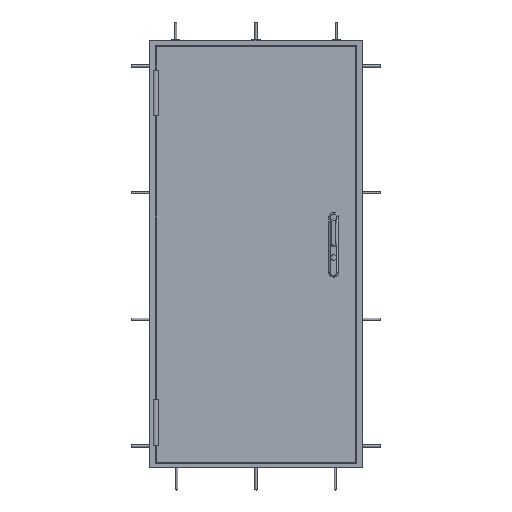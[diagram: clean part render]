
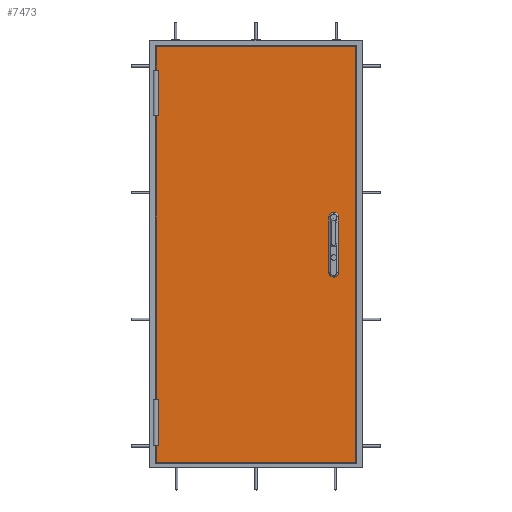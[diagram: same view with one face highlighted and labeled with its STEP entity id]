
A CAD part, top view. The second image highlights one B-rep face of the part: STEP entity #7473.
In plain terms, the highlighted planar face has unit normal (0, 0, 1).
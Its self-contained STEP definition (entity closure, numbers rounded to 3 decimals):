
#2300=DIRECTION('',(1.,0.,0.));
#2301=VECTOR('',#2300,10.25);
#2302=CARTESIAN_POINT('',(-466.,852.5,0.));
#2303=LINE('',#2302,#2301);
#2304=DIRECTION('',(0.,-1.,0.));
#2305=VECTOR('',#2304,110.5);
#2306=CARTESIAN_POINT('',(-466.,963.,0.));
#2307=LINE('',#2306,#2305);
#2308=DIRECTION('',(-1.,0.,0.));
#2309=VECTOR('',#2308,932.);
#2310=CARTESIAN_POINT('',(466.,963.,0.));
#2311=LINE('',#2310,#2309);
#2312=DIRECTION('',(0.,1.,0.));
#2313=VECTOR('',#2312,1942.);
#2314=CARTESIAN_POINT('',(466.,-979.,0.));
#2315=LINE('',#2314,#2313);
#2316=DIRECTION('',(1.,0.,0.));
#2317=VECTOR('',#2316,932.);
#2318=CARTESIAN_POINT('',(-466.,-979.,0.));
#2319=LINE('',#2318,#2317);
#2320=DIRECTION('',(0.,-1.,0.));
#2321=VECTOR('',#2320,83.5);
#2322=CARTESIAN_POINT('',(-466.,-895.5,0.));
#2323=LINE('',#2322,#2321);
#2324=DIRECTION('',(1.,0.,0.));
#2325=VECTOR('',#2324,10.25);
#2326=CARTESIAN_POINT('',(-466.,-895.5,0.));
#2327=LINE('',#2326,#2325);
#2328=DIRECTION('',(0.,-1.,0.));
#2329=VECTOR('',#2328,213.);
#2330=CARTESIAN_POINT('',(-455.75,-682.5,0.));
#2331=LINE('',#2330,#2329);
#2332=DIRECTION('',(1.,0.,0.));
#2333=VECTOR('',#2332,10.25);
#2334=CARTESIAN_POINT('',(-466.,-682.5,0.));
#2335=LINE('',#2334,#2333);
#2336=DIRECTION('',(0.,-1.,0.));
#2337=VECTOR('',#2336,1322.);
#2338=CARTESIAN_POINT('',(-466.,639.5,0.));
#2339=LINE('',#2338,#2337);
#2340=DIRECTION('',(1.,0.,0.));
#2341=VECTOR('',#2340,10.25);
#2342=CARTESIAN_POINT('',(-466.,639.5,0.));
#2343=LINE('',#2342,#2341);
#2344=DIRECTION('',(0.,1.,0.));
#2345=VECTOR('',#2344,213.);
#2346=CARTESIAN_POINT('',(-455.75,639.5,0.));
#2347=LINE('',#2346,#2345);
#2348=DIRECTION('',(0.,-1.,0.));
#2349=VECTOR('',#2348,260.);
#2350=CARTESIAN_POINT('',(339.5,167.9,0.));
#2351=LINE('',#2350,#2349);
#2352=CARTESIAN_POINT('',(359.5,-92.1,0.));
#2353=DIRECTION('',(0.,0.,1.));
#2354=DIRECTION('',(-1.,0.,0.));
#2355=AXIS2_PLACEMENT_3D('',#2352,#2353,#2354);
#2357=DIRECTION('',(1.,0.,0.));
#2358=VECTOR('',#2357,5.);
#2359=CARTESIAN_POINT('',(359.5,-112.1,0.));
#2360=LINE('',#2359,#2358);
#2361=CARTESIAN_POINT('',(364.5,-92.1,0.));
#2362=DIRECTION('',(0.,0.,1.));
#2363=DIRECTION('',(0.,-1.,0.));
#2364=AXIS2_PLACEMENT_3D('',#2361,#2362,#2363);
#2366=DIRECTION('',(0.,1.,0.));
#2367=VECTOR('',#2366,260.);
#2368=CARTESIAN_POINT('',(384.5,-92.1,0.));
#2369=LINE('',#2368,#2367);
#2370=CARTESIAN_POINT('',(364.5,167.9,0.));
#2371=DIRECTION('',(0.,0.,1.));
#2372=DIRECTION('',(1.,0.,0.));
#2373=AXIS2_PLACEMENT_3D('',#2370,#2371,#2372);
#2375=DIRECTION('',(-1.,0.,0.));
#2376=VECTOR('',#2375,5.);
#2377=CARTESIAN_POINT('',(364.5,187.9,0.));
#2378=LINE('',#2377,#2376);
#2379=CARTESIAN_POINT('',(359.5,167.9,0.));
#2380=DIRECTION('',(0.,0.,1.));
#2381=DIRECTION('',(0.,1.,0.));
#2382=AXIS2_PLACEMENT_3D('',#2379,#2380,#2381);
#3070=CARTESIAN_POINT('',(-466.,-979.,0.));
#3071=CARTESIAN_POINT('',(466.,-979.,0.));
#3072=VERTEX_POINT('',#3070);
#3073=VERTEX_POINT('',#3071);
#3074=CARTESIAN_POINT('',(466.,963.,0.));
#3075=VERTEX_POINT('',#3074);
#3076=CARTESIAN_POINT('',(-466.,963.,0.));
#3077=VERTEX_POINT('',#3076);
#3102=CARTESIAN_POINT('',(-466.,-895.5,0.));
#3103=CARTESIAN_POINT('',(-455.75,-895.5,0.));
#3104=VERTEX_POINT('',#3102);
#3105=VERTEX_POINT('',#3103);
#3106=CARTESIAN_POINT('',(-466.,-682.5,0.));
#3107=CARTESIAN_POINT('',(-455.75,-682.5,0.));
#3108=VERTEX_POINT('',#3106);
#3109=VERTEX_POINT('',#3107);
#3126=CARTESIAN_POINT('',(-466.,852.5,0.));
#3127=CARTESIAN_POINT('',(-455.75,852.5,0.));
#3128=VERTEX_POINT('',#3126);
#3129=VERTEX_POINT('',#3127);
#3130=CARTESIAN_POINT('',(-466.,639.5,0.));
#3131=CARTESIAN_POINT('',(-455.75,639.5,0.));
#3132=VERTEX_POINT('',#3130);
#3133=VERTEX_POINT('',#3131);
#3686=CARTESIAN_POINT('',(339.5,167.9,0.));
#3687=CARTESIAN_POINT('',(339.5,-92.1,0.));
#3688=VERTEX_POINT('',#3686);
#3689=VERTEX_POINT('',#3687);
#3690=CARTESIAN_POINT('',(359.5,-112.1,0.));
#3691=CARTESIAN_POINT('',(364.5,-112.1,0.));
#3692=VERTEX_POINT('',#3690);
#3693=VERTEX_POINT('',#3691);
#3694=CARTESIAN_POINT('',(384.5,-92.1,0.));
#3695=CARTESIAN_POINT('',(384.5,167.9,0.));
#3696=VERTEX_POINT('',#3694);
#3697=VERTEX_POINT('',#3695);
#3698=CARTESIAN_POINT('',(364.5,187.9,0.));
#3699=CARTESIAN_POINT('',(359.5,187.9,0.));
#3700=VERTEX_POINT('',#3698);
#3701=VERTEX_POINT('',#3699);
#7425=CARTESIAN_POINT('',(0.,0.,0.));
#7426=DIRECTION('',(0.,0.,1.));
#7427=DIRECTION('',(1.,0.,0.));
#7428=AXIS2_PLACEMENT_3D('',#7425,#7426,#7427);
#7429=PLANE('',#7428);
#7430=ORIENTED_EDGE('',*,*,#7404,.F.);
#7432=ORIENTED_EDGE('',*,*,#7431,.F.);
#7434=ORIENTED_EDGE('',*,*,#7433,.F.);
#7436=ORIENTED_EDGE('',*,*,#7435,.F.);
#7438=ORIENTED_EDGE('',*,*,#7437,.F.);
#7440=ORIENTED_EDGE('',*,*,#7439,.F.);
#7442=ORIENTED_EDGE('',*,*,#7441,.T.);
#7444=ORIENTED_EDGE('',*,*,#7443,.F.);
#7446=ORIENTED_EDGE('',*,*,#7445,.F.);
#7448=ORIENTED_EDGE('',*,*,#7447,.F.);
#7450=ORIENTED_EDGE('',*,*,#7449,.T.);
#7452=ORIENTED_EDGE('',*,*,#7451,.T.);
#7453=EDGE_LOOP('',(#7430,#7432,#7434,#7436,#7438,#7440,#7442,#7444,#7446,#7448,
#7450,#7452));
#7454=FACE_OUTER_BOUND('',#7453,.F.);
#7456=ORIENTED_EDGE('',*,*,#7455,.T.);
#7458=ORIENTED_EDGE('',*,*,#7457,.T.);
#7460=ORIENTED_EDGE('',*,*,#7459,.T.);
#7462=ORIENTED_EDGE('',*,*,#7461,.T.);
#7464=ORIENTED_EDGE('',*,*,#7463,.T.);
#7466=ORIENTED_EDGE('',*,*,#7465,.T.);
#7468=ORIENTED_EDGE('',*,*,#7467,.T.);
#7470=ORIENTED_EDGE('',*,*,#7469,.T.);
#7471=EDGE_LOOP('',(#7456,#7458,#7460,#7462,#7464,#7466,#7468,#7470));
#7472=FACE_BOUND('',#7471,.F.);
#2356=CIRCLE('',#2355,20.);
#2365=CIRCLE('',#2364,20.);
#2374=CIRCLE('',#2373,20.);
#2383=CIRCLE('',#2382,20.);
#7404=EDGE_CURVE('',#3128,#3129,#2303,.T.);
#7431=EDGE_CURVE('',#3077,#3128,#2307,.T.);
#7433=EDGE_CURVE('',#3075,#3077,#2311,.T.);
#7435=EDGE_CURVE('',#3073,#3075,#2315,.T.);
#7437=EDGE_CURVE('',#3072,#3073,#2319,.T.);
#7439=EDGE_CURVE('',#3104,#3072,#2323,.T.);
#7441=EDGE_CURVE('',#3104,#3105,#2327,.T.);
#7443=EDGE_CURVE('',#3109,#3105,#2331,.T.);
#7445=EDGE_CURVE('',#3108,#3109,#2335,.T.);
#7447=EDGE_CURVE('',#3132,#3108,#2339,.T.);
#7449=EDGE_CURVE('',#3132,#3133,#2343,.T.);
#7451=EDGE_CURVE('',#3133,#3129,#2347,.T.);
#7455=EDGE_CURVE('',#3688,#3689,#2351,.T.);
#7457=EDGE_CURVE('',#3689,#3692,#2356,.T.);
#7459=EDGE_CURVE('',#3692,#3693,#2360,.T.);
#7461=EDGE_CURVE('',#3693,#3696,#2365,.T.);
#7463=EDGE_CURVE('',#3696,#3697,#2369,.T.);
#7465=EDGE_CURVE('',#3697,#3700,#2374,.T.);
#7467=EDGE_CURVE('',#3700,#3701,#2378,.T.);
#7469=EDGE_CURVE('',#3701,#3688,#2383,.T.);
#7473=ADVANCED_FACE('',(#7454,#7472),#7429,.T.);
